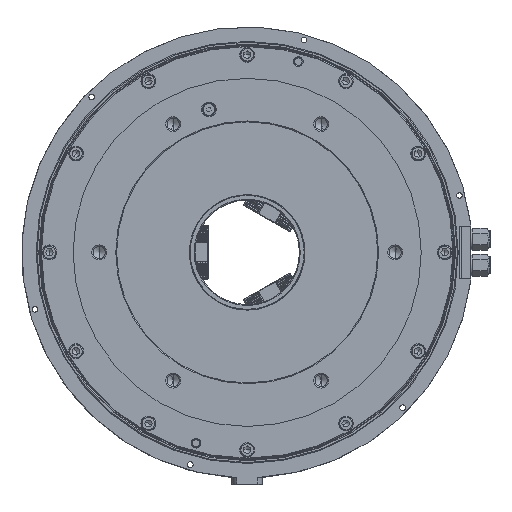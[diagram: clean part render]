
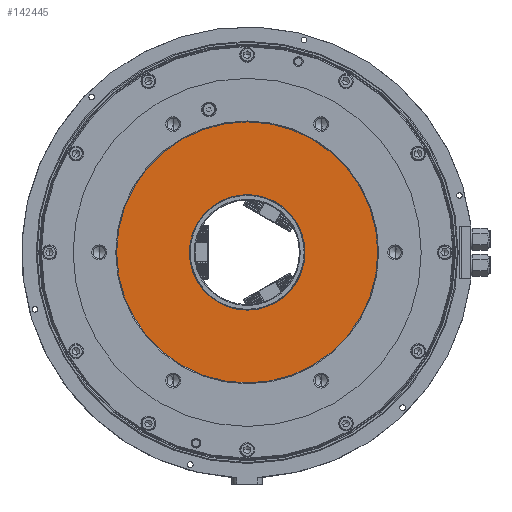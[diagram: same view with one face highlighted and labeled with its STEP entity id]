
A CAD part, left-side view. The second image highlights one B-rep face of the part: STEP entity #142445.
In plain terms, the highlighted planar face has unit normal (-1, 0, 0).
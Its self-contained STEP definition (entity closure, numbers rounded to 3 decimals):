
#10960 = DIRECTION ( 'NONE',  ( 1., 0., 0. ) ) ;
#12110 = EDGE_LOOP ( 'NONE', ( #75202, #143091 ) ) ;
#13318 = CARTESIAN_POINT ( 'NONE',  ( -192., 0., 0. ) ) ;
#26214 = ORIENTED_EDGE ( 'NONE', *, *, #68047, .T. ) ;
#29101 = CIRCLE ( 'NONE', #106817, 66.4 ) ;
#30402 = CARTESIAN_POINT ( 'NONE',  ( -192., 0., -66.4 ) ) ;
#37231 = EDGE_CURVE ( 'NONE', #111088, #137034, #141593, .T. ) ;
#43028 = CARTESIAN_POINT ( 'NONE',  ( -192., 0., 150. ) ) ;
#47271 = CARTESIAN_POINT ( 'NONE',  ( -192., 0., 0. ) ) ;
#51525 = CARTESIAN_POINT ( 'NONE',  ( -192., 0., 0. ) ) ;
#55050 = FACE_OUTER_BOUND ( 'NONE', #12110, .T. ) ;
#60064 = CARTESIAN_POINT ( 'NONE',  ( -192., 0., 66.4 ) ) ;
#66888 = FACE_BOUND ( 'NONE', #102983, .T. ) ;
#68047 = EDGE_CURVE ( 'NONE', #113417, #130463, #29101, .T. ) ;
#74025 = AXIS2_PLACEMENT_3D ( 'NONE', #92552, #80811, #136772 ) ;
#75202 = ORIENTED_EDGE ( 'NONE', *, *, #150084, .F. ) ;
#80811 = DIRECTION ( 'NONE',  ( 1., 0., 0. ) ) ;
#87638 = DIRECTION ( 'NONE',  ( 0., 0., -1. ) ) ;
#89939 = DIRECTION ( 'NONE',  ( 1., 0., 0. ) ) ;
#92552 = CARTESIAN_POINT ( 'NONE',  ( -192., 0., 0. ) ) ;
#95003 = CARTESIAN_POINT ( 'NONE',  ( -192., 150., 0. ) ) ;
#95805 = CIRCLE ( 'NONE', #135947, 150. ) ;
#102983 = EDGE_LOOP ( 'NONE', ( #26214, #110410 ) ) ;
#106817 = AXIS2_PLACEMENT_3D ( 'NONE', #51525, #89939, #87638 ) ;
#107549 = DIRECTION ( 'NONE',  ( -1., 0., 0. ) ) ;
#107699 = DIRECTION ( 'NONE',  ( 0., 0., -1. ) ) ;
#109122 = DIRECTION ( 'NONE',  ( 0., 0., -1. ) ) ;
#110410 = ORIENTED_EDGE ( 'NONE', *, *, #154294, .T. ) ;
#111088 = VERTEX_POINT ( 'NONE', #43028 ) ;
#113417 = VERTEX_POINT ( 'NONE', #60064 ) ;
#121544 = CIRCLE ( 'NONE', #124020, 66.4 ) ;
#124020 = AXIS2_PLACEMENT_3D ( 'NONE', #47271, #129692, #107699 ) ;
#128767 = DIRECTION ( 'NONE',  ( 0., 0., 1. ) ) ;
#129692 = DIRECTION ( 'NONE',  ( 1., 0., 0. ) ) ;
#130463 = VERTEX_POINT ( 'NONE', #30402 ) ;
#132102 = CARTESIAN_POINT ( 'NONE',  ( -192., 0., -150. ) ) ;
#135947 = AXIS2_PLACEMENT_3D ( 'NONE', #13318, #10960, #109122 ) ;
#136772 = DIRECTION ( 'NONE',  ( 0., 0., -1. ) ) ;
#137034 = VERTEX_POINT ( 'NONE', #132102 ) ;
#141593 = CIRCLE ( 'NONE', #74025, 150. ) ;
#142445 = ADVANCED_FACE ( 'NONE', ( #66888, #55050 ), #154645, .T. ) ;
#143091 = ORIENTED_EDGE ( 'NONE', *, *, #37231, .F. ) ;
#144848 = AXIS2_PLACEMENT_3D ( 'NONE', #95003, #107549, #128767 ) ;
#150084 = EDGE_CURVE ( 'NONE', #137034, #111088, #95805, .T. ) ;
#154294 = EDGE_CURVE ( 'NONE', #130463, #113417, #121544, .T. ) ;
#154645 = PLANE ( 'NONE',  #144848 ) ;
